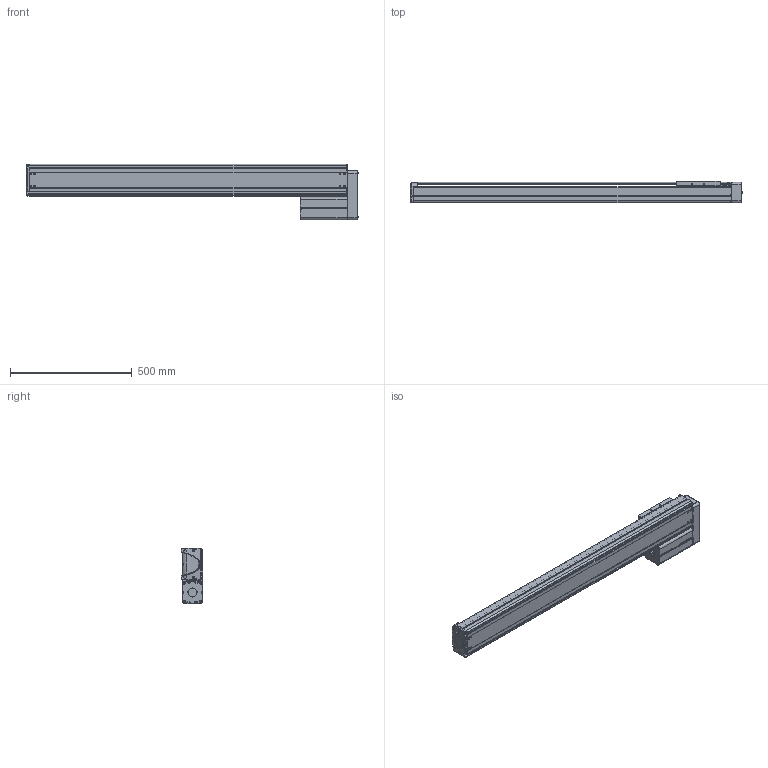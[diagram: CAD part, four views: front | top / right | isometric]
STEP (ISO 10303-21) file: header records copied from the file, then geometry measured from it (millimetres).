
FILE_DESCRIPTION((''),'2;1');
FILE_NAME('BE30E-UL-L_B-A5_IGS_PRT','2017-06-17T',(' '),(''),'PRO/ENGINEER BY PARAMETRIC TECHNOLOGY CORPORATION, 2015030','PRO/ENGINEER BY PARAMETRIC TECHNOLOGY CORPORATION, 2015030','');
FILE_SCHEMA(('CONFIG_CONTROL_DESIGN'));
Length unit declared in the file: millimetre
Products named in the file (1): BE30E-UL-L_B-A5_IGS_PRT
Bounding box: 1361.9 x 89.8 x 227 mm (x, y, z)
Volume: 4509867.7 mm3; surface area: 1905365 mm2
Topology: 2 solids, 137 shells, 2105 faces, 5698 edges, 3710 vertices
Faces by surface type: plane 1008, cylinder 907, cone 101, torus 37, bspline 28, sphere 24
Entity records: 68484 total; most frequent: CARTESIAN_POINT 14575, DIRECTION 11397, ORIENTED_EDGE 10805, EDGE_CURVE 5660, AXIS2_PLACEMENT_3D 4044, VERTEX_POINT 3710, VECTOR 3309, LINE 3309
